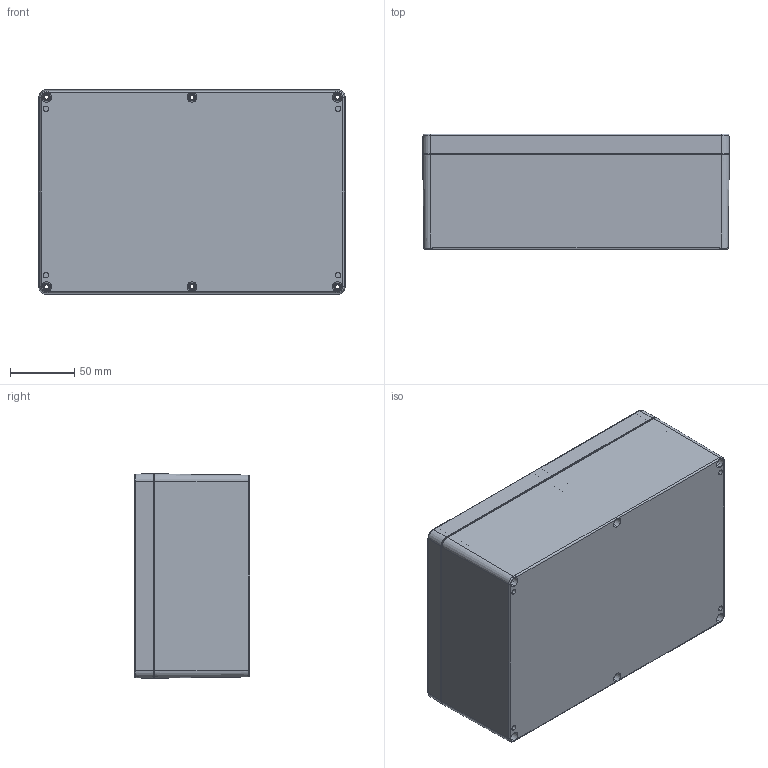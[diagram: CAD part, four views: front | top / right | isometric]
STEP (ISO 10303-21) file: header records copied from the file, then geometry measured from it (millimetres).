
FILE_DESCRIPTION (( 'STEP AP203' ), '1' );
FILE_NAME ('PE260.STEP', '2020-01-24T12:48:52', ( '' ), ( '' ), 'SwSTEP 2.0', 'SolidWorks 2020', '' );
FILE_SCHEMA (( 'CONFIG_CONTROL_DESIGN' ));
Length unit declared in the file: millimetre
Products named in the file (4): PE260
Assembly tree (3 placements, depth 2):
  PE260
    PE260
    PE260
    PE260
Bounding box: 239.57 x 90.2 x 159.7 mm (x, y, z)
Volume: 545226.6 mm3; surface area: 391948.7 mm2
Topology: 13 solids, 13 shells, 1831 faces, 4815 edges, 3138 vertices
Faces by surface type: bspline 568, cylinder 526, plane 406, cone 327, torus 4
Entity records: 63431 total; most frequent: CARTESIAN_POINT 20550, ORIENTED_EDGE 9630, DIRECTION 7903, EDGE_CURVE 4815, VERTEX_POINT 3138, AXIS2_PLACEMENT_3D 2965, EDGE_LOOP 2061, VECTOR 1973
